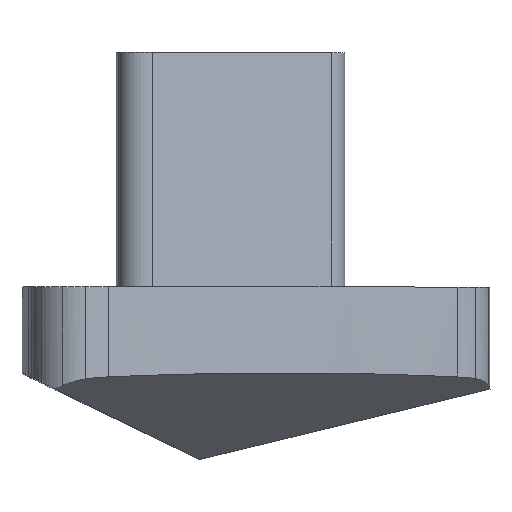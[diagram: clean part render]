
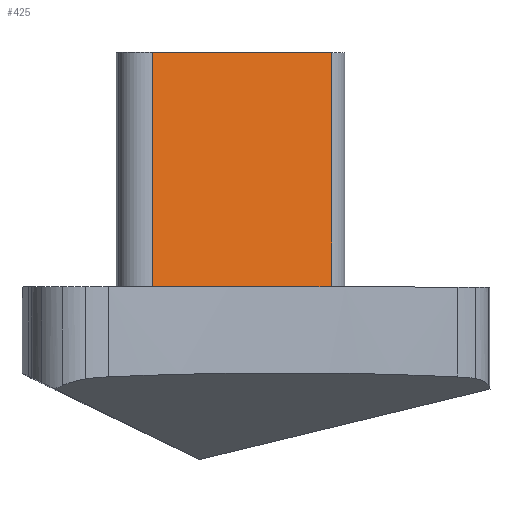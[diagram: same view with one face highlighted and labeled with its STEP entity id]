
A CAD part, top view. The second image highlights one B-rep face of the part: STEP entity #425.
In plain terms, the highlighted planar face has unit normal (0.448, 0, 0.894).
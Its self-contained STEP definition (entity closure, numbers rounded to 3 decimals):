
#201 = EDGE_CURVE( '', #303, #279, #552, .T. );
#279 = VERTEX_POINT( '', #635 );
#297 = VERTEX_POINT( '', #655 );
#303 = VERTEX_POINT( '', #661 );
#425 = ADVANCED_FACE( '', ( #801 ), #802, .T. );
#439 = VERTEX_POINT( '', #817 );
#475 = EDGE_CURVE( '', #279, #297, #854, .T. );
#487 = EDGE_CURVE( '', #297, #439, #867, .T. );
#493 = EDGE_CURVE( '', #303, #439, #873, .T. );
#552 = LINE( '', #927, #928 );
#635 = CARTESIAN_POINT( '', ( 8.447, 0., 1.342 ) );
#655 = CARTESIAN_POINT( '', ( 8.447, -15., 1.342 ) );
#661 = CARTESIAN_POINT( '', ( -3.031, 0., 7.097 ) );
#801 = FACE_OUTER_BOUND( '', #1250, .T. );
#802 = PLANE( '', #1251 );
#817 = CARTESIAN_POINT( '', ( -3.031, -15., 7.097 ) );
#854 = LINE( '', #1318, #1319 );
#867 = LINE( '', #1335, #1336 );
#873 = LINE( '', #1347, #1348 );
#927 = CARTESIAN_POINT( '', ( -3.031, 0., 7.097 ) );
#928 = VECTOR( '', #1404, 1. );
#1250 = EDGE_LOOP( '', ( #1757, #1758, #1759, #1760 ) );
#1251 = AXIS2_PLACEMENT_3D( '', #1761, #1762, #1763 );
#1318 = CARTESIAN_POINT( '', ( 8.447, 0., 1.342 ) );
#1319 = VECTOR( '', #1810, 1. );
#1335 = CARTESIAN_POINT( '', ( -0.398, -15., 5.777 ) );
#1336 = VECTOR( '', #1818, 1. );
#1347 = CARTESIAN_POINT( '', ( -3.031, 0., 7.097 ) );
#1348 = VECTOR( '', #1821, 1. );
#1404 = DIRECTION( '', ( 0.894, 0., -0.448 ) );
#1757 = ORIENTED_EDGE( '', *, *, #487, .F. );
#1758 = ORIENTED_EDGE( '', *, *, #475, .F. );
#1759 = ORIENTED_EDGE( '', *, *, #201, .F. );
#1760 = ORIENTED_EDGE( '', *, *, #493, .T. );
#1761 = CARTESIAN_POINT( '', ( -3.031, 0., 7.097 ) );
#1762 = DIRECTION( '', ( 0.448, 0., 0.894 ) );
#1763 = DIRECTION( '', ( -0.894, 0., 0.448 ) );
#1810 = DIRECTION( '', ( 0., -1., 0. ) );
#1818 = DIRECTION( '', ( -0.894, 0., 0.448 ) );
#1821 = DIRECTION( '', ( 0., -1., 0. ) );
